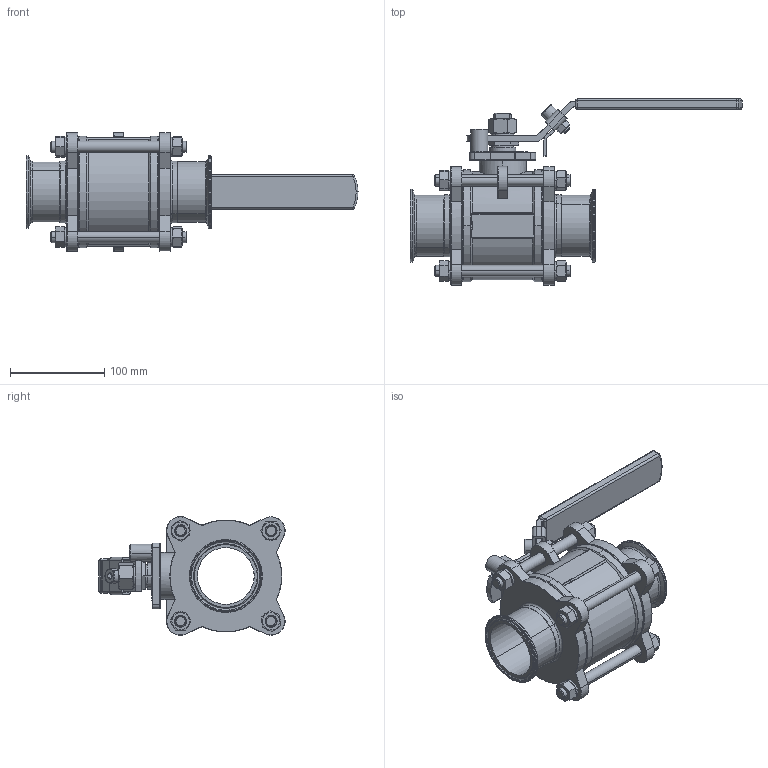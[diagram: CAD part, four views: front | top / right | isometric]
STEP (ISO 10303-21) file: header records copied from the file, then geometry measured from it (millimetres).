
FILE_DESCRIPTION (( 'STEP AP203' ), '1' );
FILE_NAME ('BAV-C-2.5.STEP', '2019-06-17T05:46:27', ( '' ), ( '' ), 'SwSTEP 2.0', 'SolidWorks 2014', '' );
FILE_SCHEMA (( 'CONFIG_CONTROL_DESIGN' ));
Length unit declared in the file: millimetre
Products named in the file (21): 2WAY-SEAT-2.5; 2WAY-THRUST WASHER-2.5-3.0; 2WAY-HANDLE-2.5-3.0-3; 2WAY-HANDLE-2.5-3.0-1; 2WAY-STOP PIN-2.5-3.0; 2WAY-BOLT NUT-2.5; BAV-C-2.5; 2WAY-HANDLE-2.5-3.0-3-1; 2WAY-BODY-2.5; 2WAY-HANDLE-2.5-3.0; 2WAY-STEM PACKINGS-2.5; 2WAY-BOLT WASHERS-2.5; 2WAY-BOLT-2.5; 2WAY-GLAND-2.5-3.0; 2WAY-BALL-2.5; 2WAY-HANDLE WASHERS-2.5-3.0; 2WAY-STEM-2.5-3.0; 2WAY-HANDLE-2.5-3.0-2; 2WAY-HANDLE NUT-2.5-3.0; 2WAY-GASKET-2.5; 2WAY-CAP-C-2.5
Assembly tree (40 placements, depth 2):
  BAV-C-2.5
    2WAY-BODY-2.5
    2WAY-STEM-2.5-3.0
    2WAY-THRUST WASHER-2.5-3.0
    2WAY-SEAT-2.5  x2
    2WAY-STEM PACKINGS-2.5
    2WAY-GLAND-2.5-3.0
    2WAY-BALL-2.5
    2WAY-GASKET-2.5  x2
    2WAY-CAP-C-2.5  x2
    2WAY-BOLT-2.5  x4
    2WAY-BOLT NUT-2.5  x8
    2WAY-BOLT WASHERS-2.5  x8
    2WAY-HANDLE NUT-2.5-3.0
    2WAY-HANDLE WASHERS-2.5-3.0
    2WAY-HANDLE-2.5-3.0
    2WAY-HANDLE-2.5-3.0-1
    2WAY-HANDLE-2.5-3.0-2
    2WAY-HANDLE-2.5-3.0-3
    2WAY-HANDLE-2.5-3.0-3-1
    2WAY-STOP PIN-2.5-3.0
Bounding box: 352.91 x 197.73 x 126.14 mm (x, y, z)
Volume: 1232110.8 mm3; surface area: 411747.8 mm2
Topology: 40 solids, 40 shells, 1109 faces, 2502 edges, 1474 vertices
Faces by surface type: cylinder 406, plane 262, torus 187, cone 181, sphere 39, bspline 34
Entity records: 26129 total; most frequent: CARTESIAN_POINT 5725, DIRECTION 4086, ORIENTED_EDGE 3458, AXIS2_PLACEMENT_3D 1739, EDGE_CURVE 1729, VERTEX_POINT 1008, CIRCLE 952, EDGE_LOOP 853
